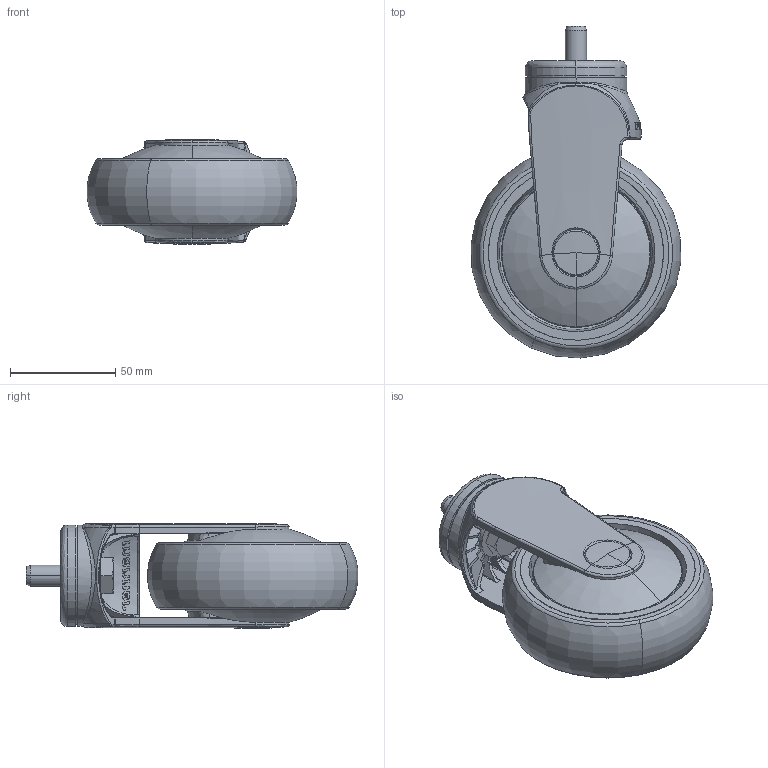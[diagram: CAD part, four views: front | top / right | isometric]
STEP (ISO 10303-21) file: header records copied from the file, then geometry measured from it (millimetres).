
FILE_DESCRIPTION (( 'STEP AP203' ), '1' );
FILE_NAME ('301035_STEP.STEP', '2011-06-22T10:05:56', ( '' ), ( '' ), 'SwSTEP 2.0', 'SolidWorks 2011', '' );
FILE_SCHEMA (( 'CONFIG_CONTROL_DESIGN' ));
Length unit declared in the file: millimetre
Products named in the file (1): 301035_STEP
Bounding box: 99.49 x 157.37 x 49.73 mm (x, y, z)
Surface area: 72451.8 mm2 (no closed solid volume)
Topology: 0 solids, 11 shells, 352 faces, 1412 edges, 1015 vertices
Faces by surface type: bspline 158, plane 78, cylinder 62, cone 44, torus 10
Entity records: 36565 total; most frequent: CARTESIAN_POINT 27186, ORIENTED_EDGE 2148, EDGE_CURVE 1408, DIRECTION 1196, VERTEX_POINT 1015, B_SPLINE_CURVE_WITH_KNOTS 824, AXIS2_PLACEMENT_3D 434, EDGE_LOOP 371
